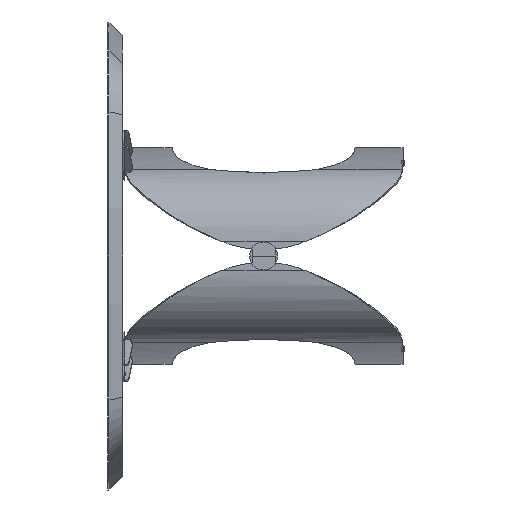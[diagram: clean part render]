
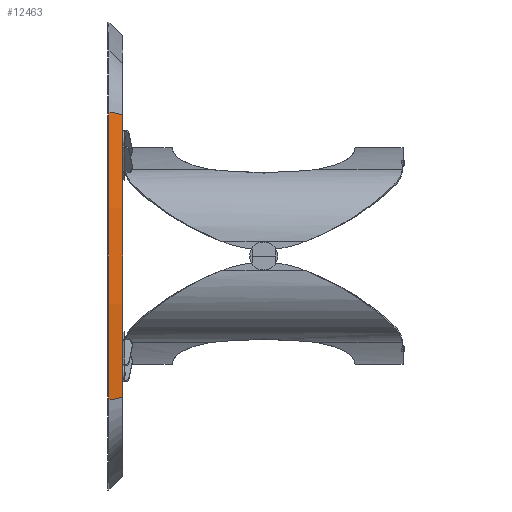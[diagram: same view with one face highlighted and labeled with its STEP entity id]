
A CAD part, left-side view. The second image highlights one B-rep face of the part: STEP entity #12463.
In plain terms, the highlighted conical face has half-angle 45 degrees and reference radius 1895 mm.
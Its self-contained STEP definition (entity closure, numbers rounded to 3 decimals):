
#613 = EDGE_CURVE ( 'NONE', #13280, #10978, #25471, .T. ) ;
#676 = CIRCLE ( 'NONE', #3756, 1860.293 ) ;
#1031 = AXIS2_PLACEMENT_3D ( 'NONE', #9321, #18139, #19796 ) ;
#2367 = ORIENTED_EDGE ( 'NONE', *, *, #26064, .T. ) ;
#3756 = AXIS2_PLACEMENT_3D ( 'NONE', #26026, #7402, #7129 ) ;
#4124 = CARTESIAN_POINT ( 'NONE',  ( -1163.672, 35., 369.275 ) ) ;
#4974 = LINE ( 'NONE', #17664, #11212 ) ;
#5740 = CARTESIAN_POINT ( 'NONE',  ( -1129.343, 0., 362.455 ) ) ;
#6066 = AXIS2_PLACEMENT_3D ( 'NONE', #6813, #13026, #15626 ) ;
#6813 = CARTESIAN_POINT ( 'NONE',  ( 695., 35., 0. ) ) ;
#7129 = DIRECTION ( 'NONE',  ( 0., 0., 1. ) ) ;
#7402 = DIRECTION ( 'NONE',  ( 0., 1., 0. ) ) ;
#9321 = CARTESIAN_POINT ( 'NONE',  ( 695., 35., 0. ) ) ;
#10978 = VERTEX_POINT ( 'NONE', #4124 ) ;
#11212 = VECTOR ( 'NONE', #15580, 1000. ) ;
#12463 = ADVANCED_FACE ( 'NONE', ( #24347 ), #23012, .T. ) ;
#13026 = DIRECTION ( 'NONE',  ( 0., 1., 0. ) ) ;
#13280 = VERTEX_POINT ( 'NONE', #23254 ) ;
#13288 = VERTEX_POINT ( 'NONE', #16132 ) ;
#14305 = ORIENTED_EDGE ( 'NONE', *, *, #19064, .T. ) ;
#15580 = DIRECTION ( 'NONE',  ( -0.694, 0.707, -0.138 ) ) ;
#15626 = DIRECTION ( 'NONE',  ( 0., 0., 1. ) ) ;
#15815 = EDGE_CURVE ( 'NONE', #17845, #13280, #4974, .T. ) ;
#16132 = CARTESIAN_POINT ( 'NONE',  ( -1129.63, 0.293, 362.512 ) ) ;
#17664 = CARTESIAN_POINT ( 'NONE',  ( -1129.343, 0., -362.455 ) ) ;
#17845 = VERTEX_POINT ( 'NONE', #26076 ) ;
#18139 = DIRECTION ( 'NONE',  ( 0., 1., 0. ) ) ;
#19064 = EDGE_CURVE ( 'NONE', #17845, #13288, #676, .T. ) ;
#19363 = EDGE_LOOP ( 'NONE', ( #22995, #14305, #2367, #19963 ) ) ;
#19796 = DIRECTION ( 'NONE',  ( 0., 0., 1. ) ) ;
#19963 = ORIENTED_EDGE ( 'NONE', *, *, #613, .F. ) ;
#22413 = DIRECTION ( 'NONE',  ( -0.694, 0.707, 0.138 ) ) ;
#22645 = VECTOR ( 'NONE', #22413, 1000. ) ;
#22823 = LINE ( 'NONE', #5740, #22645 ) ;
#22995 = ORIENTED_EDGE ( 'NONE', *, *, #15815, .F. ) ;
#23012 = CONICAL_SURFACE ( 'NONE', #1031, 1895., 0.785 ) ;
#23254 = CARTESIAN_POINT ( 'NONE',  ( -1163.672, 35., -369.275 ) ) ;
#24347 = FACE_OUTER_BOUND ( 'NONE', #19363, .T. ) ;
#25471 = CIRCLE ( 'NONE', #6066, 1895. ) ;
#26026 = CARTESIAN_POINT ( 'NONE',  ( 695., 0.293, 0. ) ) ;
#26064 = EDGE_CURVE ( 'NONE', #13288, #10978, #22823, .T. ) ;
#26076 = CARTESIAN_POINT ( 'NONE',  ( -1129.63, 0.293, -362.512 ) ) ;
